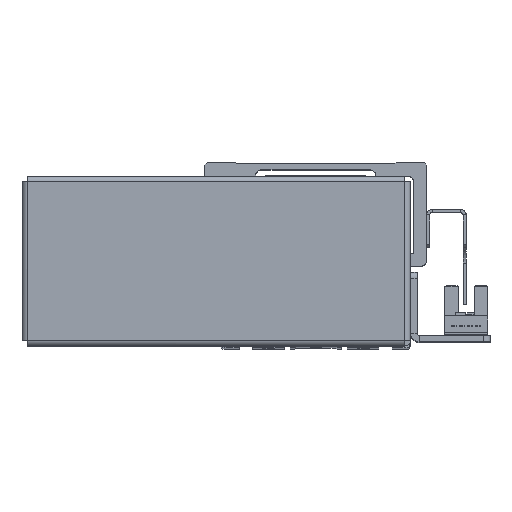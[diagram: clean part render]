
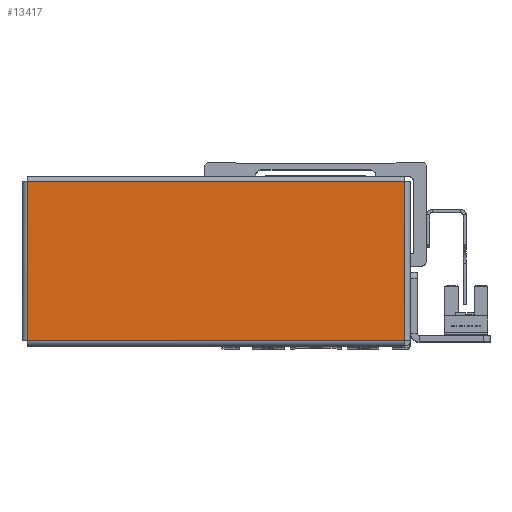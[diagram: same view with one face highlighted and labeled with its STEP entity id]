
A CAD part, top view. The second image highlights one B-rep face of the part: STEP entity #13417.
In plain terms, the highlighted planar face has unit normal (0, 0, 1) as drawn and (0, 0, -1) by its records, which use the part's own axes.
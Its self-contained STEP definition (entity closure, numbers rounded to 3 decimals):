
#15 = DIRECTION ( 'NONE',  ( -1., 0., 0. ) ) ;
#33 = CARTESIAN_POINT ( 'NONE',  ( 59.543, -25.013, -1. ) ) ;
#747 = CARTESIAN_POINT ( 'NONE',  ( -59.543, 25.013, -1. ) ) ;
#790 = DIRECTION ( 'NONE',  ( 1., 0., 0. ) ) ;
#887 = DIRECTION ( 'NONE',  ( 0., 1., 0. ) ) ;
#909 = CARTESIAN_POINT ( 'NONE',  ( -59.513, -25.043, -1. ) ) ;
#953 = DIRECTION ( 'NONE',  ( 0., -1., 0. ) ) ;
#968 = CARTESIAN_POINT ( 'NONE',  ( 59.513, 25.043, -1. ) ) ;
#1406 = VECTOR ( 'NONE', #790, 1000. ) ;
#1428 = LINE ( 'NONE', #747, #1406 ) ;
#1521 = VECTOR ( 'NONE', #953, 1000. ) ;
#1531 = VECTOR ( 'NONE', #887, 1000. ) ;
#1556 = LINE ( 'NONE', #909, #1531 ) ;
#1565 = LINE ( 'NONE', #968, #1521 ) ;
#1579 = LINE ( 'NONE', #33, #1580 ) ;
#1580 = VECTOR ( 'NONE', #15, 1000. ) ;
#5830 = EDGE_LOOP ( 'NONE', ( #11898, #11829, #11773, #11755 ) ) ;
#10540 = VERTEX_POINT ( 'NONE', #14388 ) ;
#10548 = VERTEX_POINT ( 'NONE', #14389 ) ;
#10555 = VERTEX_POINT ( 'NONE', #14438 ) ;
#10574 = VERTEX_POINT ( 'NONE', #14458 ) ;
#11755 = ORIENTED_EDGE ( 'NONE', *, *, #28544, .T. ) ;
#11773 = ORIENTED_EDGE ( 'NONE', *, *, #28604, .T. ) ;
#11829 = ORIENTED_EDGE ( 'NONE', *, *, #28664, .T. ) ;
#11898 = ORIENTED_EDGE ( 'NONE', *, *, #28616, .T. ) ;
#13417 = ADVANCED_FACE ( 'NONE', ( #23162 ), #15970, .F. ) ;
#14388 = CARTESIAN_POINT ( 'NONE',  ( 59.513, -25.013, -1. ) ) ;
#14389 = CARTESIAN_POINT ( 'NONE',  ( -59.513, -25.013, -1. ) ) ;
#14438 = CARTESIAN_POINT ( 'NONE',  ( -59.513, 25.013, -1. ) ) ;
#14458 = CARTESIAN_POINT ( 'NONE',  ( 59.513, 25.013, -1. ) ) ;
#15970 = PLANE ( 'NONE',  #29849 ) ;
#15979 = DIRECTION ( 'NONE',  ( 1., 0., 0. ) ) ;
#15982 = CARTESIAN_POINT ( 'NONE',  ( 0., 0., -1. ) ) ;
#15991 = DIRECTION ( 'NONE',  ( 0., 0., 1. ) ) ;
#23162 = FACE_OUTER_BOUND ( 'NONE', #5830, .T. ) ;
#28544 = EDGE_CURVE ( 'NONE', #10555, #10574, #1428, .T. ) ;
#28604 = EDGE_CURVE ( 'NONE', #10548, #10555, #1556, .T. ) ;
#28616 = EDGE_CURVE ( 'NONE', #10574, #10540, #1565, .T. ) ;
#28664 = EDGE_CURVE ( 'NONE', #10540, #10548, #1579, .T. ) ;
#29849 = AXIS2_PLACEMENT_3D ( 'NONE', #15982, #15991, #15979 ) ;
